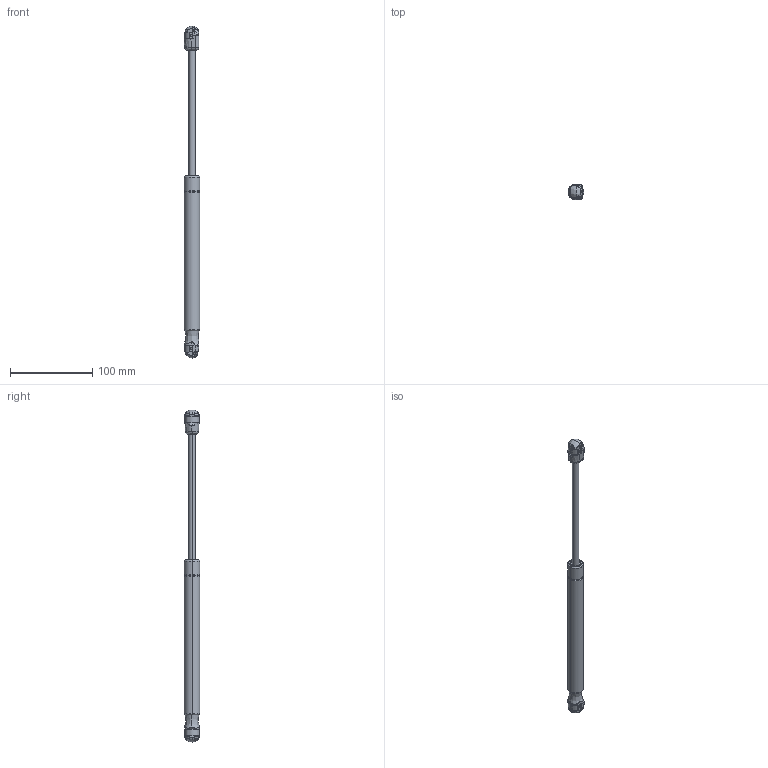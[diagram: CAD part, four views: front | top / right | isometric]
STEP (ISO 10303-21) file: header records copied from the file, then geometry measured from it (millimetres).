
FILE_DESCRIPTION (( 'STEP AP214' ), '1' );
FILE_NAME ('GS08-0550PE10.STEP', '2011-03-23T19:56:22', ( 'user' ), ( '' ), 'SwSTEP 2.0', 'SolidWorks 2011', '' );
FILE_SCHEMA (( 'AUTOMOTIVE_DESIGN' ));
Length unit declared in the file: millimetre
Products named in the file (10): 7175NH_B-SOCKET_FLARED2-2; GS08-0550PE10-NC; 7175NH_B-SOCKET_FLARED1-2; 7175NH_B-SOCKET_FLARED1; GS-0550PE10-SHAFT; GS-0550PE10-TUBE; 4098DY_B-SOCKET2-4; GS08-0550PE10; 4098DY_B-SOCKET1-4; 4098DY_B-SOCKETa
Assembly tree (9 placements, depth 3):
  GS08-0550PE10
    4098DY_B-SOCKETa
      4098DY_B-SOCKET1-4
      4098DY_B-SOCKET2-4
    GS08-0550PE10-NC
      GS-0550PE10-TUBE
      GS-0550PE10-SHAFT
    7175NH_B-SOCKET_FLARED1
      7175NH_B-SOCKET_FLARED2-2
      7175NH_B-SOCKET_FLARED1-2
Bounding box: 19.05 x 19 x 404 mm (x, y, z)
Volume: 63279.1 mm3; surface area: 26648.5 mm2
Topology: 6 solids, 6 shells, 403 faces, 1085 edges, 683 vertices
Faces by surface type: bspline 140, plane 119, cylinder 118, cone 18, torus 8
Entity records: 18249 total; most frequent: CARTESIAN_POINT 7604, ORIENTED_EDGE 2152, DIRECTION 1574, EDGE_CURVE 1076, VERTEX_POINT 682, AXIS2_PLACEMENT_3D 596, EDGE_LOOP 408, ADVANCED_FACE 403
